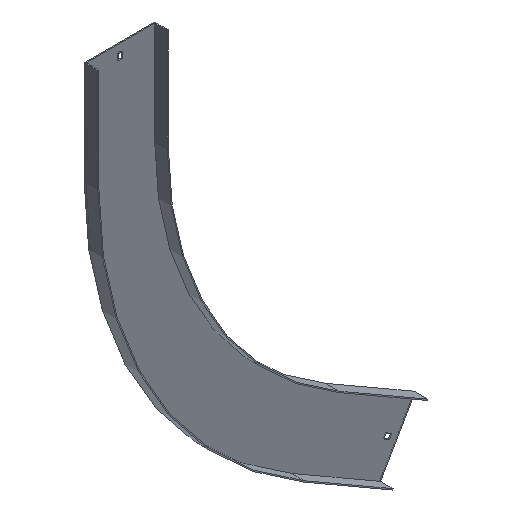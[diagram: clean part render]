
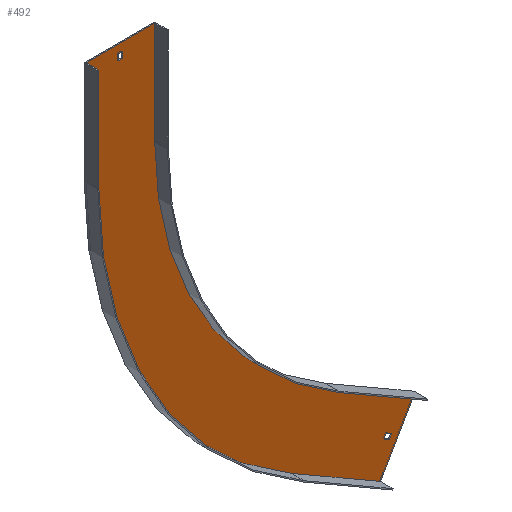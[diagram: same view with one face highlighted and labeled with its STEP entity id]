
A CAD part, isometric view. The second image highlights one B-rep face of the part: STEP entity #492.
In plain terms, the highlighted planar face has unit normal (0, -1, 0).
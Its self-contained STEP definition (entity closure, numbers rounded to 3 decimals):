
#1 = EDGE_CURVE ( 'NONE', #682, #303, #433, .T. ) ;
#12 = VERTEX_POINT ( 'NONE', #340 ) ;
#21 = DIRECTION ( 'NONE',  ( 0., 0., -1. ) ) ;
#22 = CARTESIAN_POINT ( 'NONE',  ( -120.096, -1.5, -508.013 ) ) ;
#25 = ORIENTED_EDGE ( 'NONE', *, *, #174, .T. ) ;
#35 = LINE ( 'NONE', #314, #766 ) ;
#37 = DIRECTION ( 'NONE',  ( -0.5, 0., -0.866 ) ) ;
#43 = CARTESIAN_POINT ( 'NONE',  ( -553.25, -1.5, 129. ) ) ;
#45 = CARTESIAN_POINT ( 'NONE',  ( -157.113, -1.5, -548.129 ) ) ;
#46 = VECTOR ( 'NONE', #701, 1000. ) ;
#48 = EDGE_CURVE ( 'NONE', #253, #501, #73, .T. ) ;
#49 = DIRECTION ( 'NONE',  ( 0., 0., 1. ) ) ;
#55 = CARTESIAN_POINT ( 'NONE',  ( 0., -1.5, 138. ) ) ;
#59 = DIRECTION ( 'NONE',  ( -0.5, 0., -0.866 ) ) ;
#61 = LINE ( 'NONE', #55, #819 ) ;
#67 = CARTESIAN_POINT ( 'NONE',  ( 0., -1.5, 0. ) ) ;
#68 = CARTESIAN_POINT ( 'NONE',  ( -119.346, -1.5, -506.714 ) ) ;
#73 = LINE ( 'NONE', #351, #852 ) ;
#87 = ORIENTED_EDGE ( 'NONE', *, *, #1, .T. ) ;
#104 = ORIENTED_EDGE ( 'NONE', *, *, #327, .T. ) ;
#118 = CARTESIAN_POINT ( 'NONE',  ( -546.75, -1.5, 138. ) ) ;
#119 = CARTESIAN_POINT ( 'NONE',  ( -600., -1.5, 0. ) ) ;
#120 = EDGE_CURVE ( 'NONE', #365, #12, #418, .T. ) ;
#121 = LINE ( 'NONE', #659, #455 ) ;
#128 = LINE ( 'NONE', #473, #620 ) ;
#130 = FACE_BOUND ( 'NONE', #834, .T. ) ;
#168 = CARTESIAN_POINT ( 'NONE',  ( -600., -1.5, 0. ) ) ;
#173 = VERTEX_POINT ( 'NONE', #855 ) ;
#174 = EDGE_CURVE ( 'NONE', #844, #422, #121, .T. ) ;
#176 = VERTEX_POINT ( 'NONE', #45 ) ;
#184 = LINE ( 'NONE', #821, #708 ) ;
#190 = ORIENTED_EDGE ( 'NONE', *, *, #120, .F. ) ;
#191 = CARTESIAN_POINT ( 'NONE',  ( 119.512, -1.5, -69. ) ) ;
#206 = DIRECTION ( 'NONE',  ( 0.866, 0., -0.5 ) ) ;
#210 = VECTOR ( 'NONE', #206, 1000. ) ;
#213 = DIRECTION ( 'NONE',  ( 0., 0., -1. ) ) ;
#237 = EDGE_CURVE ( 'NONE', #501, #299, #184, .T. ) ;
#244 = CARTESIAN_POINT ( 'NONE',  ( -170.096, -1.5, -594.615 ) ) ;
#249 = DIRECTION ( 'NONE',  ( 0., 0., -1. ) ) ;
#253 = VERTEX_POINT ( 'NONE', #591 ) ;
#269 = AXIS2_PLACEMENT_3D ( 'NONE', #414, #680, #21 ) ;
#272 = DIRECTION ( 'NONE',  ( 0.866, 0., -0.5 ) ) ;
#274 = CARTESIAN_POINT ( 'NONE',  ( -600., -1.5, 150. ) ) ;
#279 = VECTOR ( 'NONE', #777, 1000. ) ;
#288 = LINE ( 'NONE', #68, #544 ) ;
#299 = VERTEX_POINT ( 'NONE', #571 ) ;
#303 = VERTEX_POINT ( 'NONE', #756 ) ;
#314 = CARTESIAN_POINT ( 'NONE',  ( -500., -1.5, 150. ) ) ;
#320 = VECTOR ( 'NONE', #577, 1000. ) ;
#327 = EDGE_CURVE ( 'NONE', #422, #682, #833, .T. ) ;
#340 = CARTESIAN_POINT ( 'NONE',  ( -500., -1.5, 150. ) ) ;
#347 = EDGE_CURVE ( 'NONE', #303, #844, #61, .T. ) ;
#351 = CARTESIAN_POINT ( 'NONE',  ( -273.375, -1.5, -473.499 ) ) ;
#362 = EDGE_LOOP ( 'NONE', ( #644, #439, #757, #562 ) ) ;
#365 = VERTEX_POINT ( 'NONE', #274 ) ;
#385 = CARTESIAN_POINT ( 'NONE',  ( -553.25, -1.5, 0. ) ) ;
#386 = ORIENTED_EDGE ( 'NONE', *, *, #625, .F. ) ;
#387 = LINE ( 'NONE', #191, #320 ) ;
#394 = LINE ( 'NONE', #436, #493 ) ;
#404 = EDGE_CURVE ( 'NONE', #299, #176, #541, .T. ) ;
#409 = EDGE_CURVE ( 'NONE', #435, #509, #128, .T. ) ;
#414 = CARTESIAN_POINT ( 'NONE',  ( 0., -1.5, 0. ) ) ;
#418 = LINE ( 'NONE', #853, #661 ) ;
#422 = VERTEX_POINT ( 'NONE', #670 ) ;
#433 = LINE ( 'NONE', #385, #506 ) ;
#435 = VERTEX_POINT ( 'NONE', #549 ) ;
#436 = CARTESIAN_POINT ( 'NONE',  ( -170.096, -1.5, -594.615 ) ) ;
#439 = ORIENTED_EDGE ( 'NONE', *, *, #841, .F. ) ;
#443 = DIRECTION ( 'NONE',  ( 0., 1., 0. ) ) ;
#448 = AXIS2_PLACEMENT_3D ( 'NONE', #67, #797, #213 ) ;
#455 = VECTOR ( 'NONE', #725, 1000. ) ;
#466 = EDGE_CURVE ( 'NONE', #173, #435, #786, .T. ) ;
#470 = VERTEX_POINT ( 'NONE', #244 ) ;
#472 = EDGE_CURVE ( 'NONE', #509, #470, #288, .T. ) ;
#473 = CARTESIAN_POINT ( 'NONE',  ( -250., -1.5, -433.013 ) ) ;
#476 = DIRECTION ( 'NONE',  ( -0.866, 0., 0.5 ) ) ;
#492 = ADVANCED_FACE ( 'NONE', ( #795, #673, #130 ), #856, .T. ) ;
#493 = VECTOR ( 'NONE', #636, 1000. ) ;
#494 = ORIENTED_EDGE ( 'NONE', *, *, #793, .F. ) ;
#496 = ORIENTED_EDGE ( 'NONE', *, *, #851, .F. ) ;
#501 = VERTEX_POINT ( 'NONE', #641 ) ;
#506 = VECTOR ( 'NONE', #49, 1000. ) ;
#509 = VERTEX_POINT ( 'NONE', #22 ) ;
#524 = DIRECTION ( 'NONE',  ( 0., 0., -1. ) ) ;
#536 = DIRECTION ( 'NONE',  ( 1., 0., 0. ) ) ;
#541 = LINE ( 'NONE', #733, #210 ) ;
#544 = VECTOR ( 'NONE', #59, 1000. ) ;
#549 = CARTESIAN_POINT ( 'NONE',  ( -250., -1.5, -433.013 ) ) ;
#562 = ORIENTED_EDGE ( 'NONE', *, *, #237, .F. ) ;
#571 = CARTESIAN_POINT ( 'NONE',  ( -164.908, -1.5, -543.629 ) ) ;
#574 = CARTESIAN_POINT ( 'NONE',  ( -300., -1.5, -519.615 ) ) ;
#577 = DIRECTION ( 'NONE',  ( 0.5, 0., 0.866 ) ) ;
#589 = EDGE_LOOP ( 'NONE', ( #190, #386, #780, #496, #639, #619, #689, #494 ) ) ;
#591 = CARTESIAN_POINT ( 'NONE',  ( -153.863, -1.5, -542.499 ) ) ;
#619 = ORIENTED_EDGE ( 'NONE', *, *, #409, .F. ) ;
#620 = VECTOR ( 'NONE', #272, 1000. ) ;
#625 = EDGE_CURVE ( 'NONE', #775, #365, #830, .T. ) ;
#636 = DIRECTION ( 'NONE',  ( -0.866, 0., 0.5 ) ) ;
#639 = ORIENTED_EDGE ( 'NONE', *, *, #472, .F. ) ;
#641 = CARTESIAN_POINT ( 'NONE',  ( -161.658, -1.5, -537.999 ) ) ;
#643 = CARTESIAN_POINT ( 'NONE',  ( 0., -1.5, 129. ) ) ;
#644 = ORIENTED_EDGE ( 'NONE', *, *, #48, .F. ) ;
#655 = ORIENTED_EDGE ( 'NONE', *, *, #347, .T. ) ;
#659 = CARTESIAN_POINT ( 'NONE',  ( -546.75, -1.5, 0. ) ) ;
#661 = VECTOR ( 'NONE', #729, 1000. ) ;
#670 = CARTESIAN_POINT ( 'NONE',  ( -546.75, -1.5, 129. ) ) ;
#673 = FACE_OUTER_BOUND ( 'NONE', #589, .T. ) ;
#680 = DIRECTION ( 'NONE',  ( 0., -1., 0. ) ) ;
#682 = VERTEX_POINT ( 'NONE', #43 ) ;
#689 = ORIENTED_EDGE ( 'NONE', *, *, #466, .F. ) ;
#701 = DIRECTION ( 'NONE',  ( -1., 0., 0. ) ) ;
#708 = VECTOR ( 'NONE', #37, 1000. ) ;
#709 = VERTEX_POINT ( 'NONE', #574 ) ;
#710 = CARTESIAN_POINT ( 'NONE',  ( 0., -1.5, 0. ) ) ;
#725 = DIRECTION ( 'NONE',  ( 0., 0., -1. ) ) ;
#729 = DIRECTION ( 'NONE',  ( 1., 0., 0. ) ) ;
#733 = CARTESIAN_POINT ( 'NONE',  ( -276.625, -1.5, -479.129 ) ) ;
#756 = CARTESIAN_POINT ( 'NONE',  ( -553.25, -1.5, 138. ) ) ;
#757 = ORIENTED_EDGE ( 'NONE', *, *, #404, .F. ) ;
#766 = VECTOR ( 'NONE', #249, 1000. ) ;
#775 = VERTEX_POINT ( 'NONE', #168 ) ;
#777 = DIRECTION ( 'NONE',  ( 0., 0., 1. ) ) ;
#780 = ORIENTED_EDGE ( 'NONE', *, *, #826, .F. ) ;
#786 = CIRCLE ( 'NONE', #269, 500. ) ;
#793 = EDGE_CURVE ( 'NONE', #12, #173, #35, .T. ) ;
#795 = FACE_BOUND ( 'NONE', #362, .T. ) ;
#797 = DIRECTION ( 'NONE',  ( 0., -1., 0. ) ) ;
#819 = VECTOR ( 'NONE', #536, 1000. ) ;
#821 = CARTESIAN_POINT ( 'NONE',  ( 111.717, -1.5, -64.5 ) ) ;
#826 = EDGE_CURVE ( 'NONE', #709, #775, #832, .T. ) ;
#830 = LINE ( 'NONE', #119, #279 ) ;
#831 = AXIS2_PLACEMENT_3D ( 'NONE', #710, #443, #524 ) ;
#832 = CIRCLE ( 'NONE', #831, 600. ) ;
#833 = LINE ( 'NONE', #643, #46 ) ;
#834 = EDGE_LOOP ( 'NONE', ( #655, #25, #104, #87 ) ) ;
#841 = EDGE_CURVE ( 'NONE', #176, #253, #387, .T. ) ;
#844 = VERTEX_POINT ( 'NONE', #118 ) ;
#851 = EDGE_CURVE ( 'NONE', #470, #709, #394, .T. ) ;
#852 = VECTOR ( 'NONE', #476, 1000. ) ;
#853 = CARTESIAN_POINT ( 'NONE',  ( -601.5, -1.5, 150. ) ) ;
#855 = CARTESIAN_POINT ( 'NONE',  ( -500., -1.5, 0. ) ) ;
#856 = PLANE ( 'NONE',  #448 ) ;
